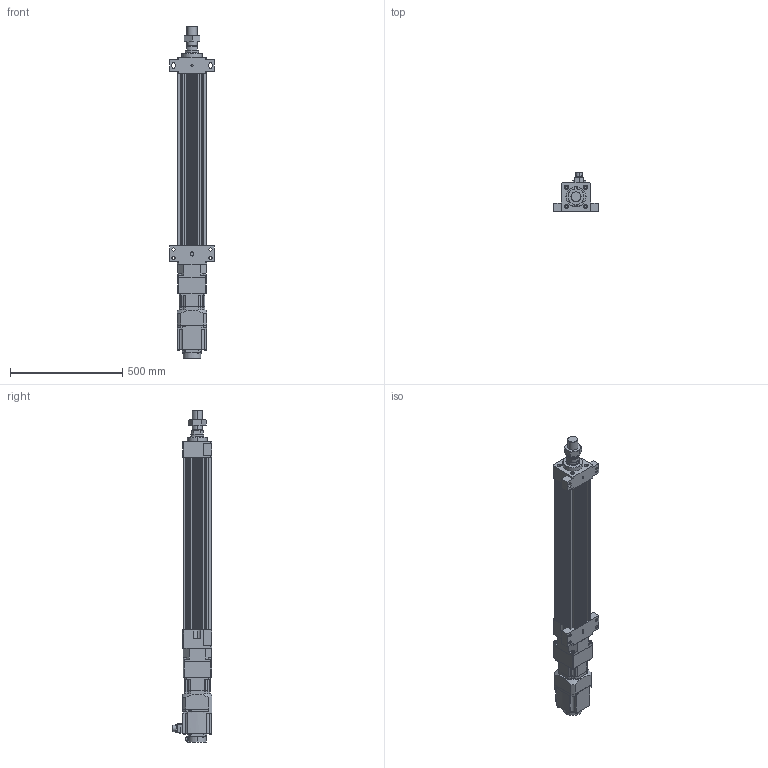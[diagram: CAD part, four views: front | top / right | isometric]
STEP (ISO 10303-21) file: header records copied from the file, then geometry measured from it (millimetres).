
FILE_DESCRIPTION (( 'STEP AP203' ), '1' );
FILE_NAME ('HES130NS(FS)(HS)-S550-W015G00-M-FFB.STEP', '2023-01-30T09:21:42', ( 'tms' ), ( '' ), 'SwSTEP 2.0', 'SolidWorks 2013', '' );
FILE_SCHEMA (( 'CONFIG_CONTROL_DESIGN' ));
Length unit declared in the file: millimetre
Products named in the file (8): AB1151; AB115-003[HG-SR152]; HES130NS(FS)(HS)-S550-W015G00-M-FFB; HES130-S550-G120-FFB; HES130 ROD M ST550; HG-SR152; P0401400706; M45X1.5P
Assembly tree (7 placements, depth 3):
  HES130NS(FS)(HS)-S550-W015G00-M-FFB
    HES130-S550-G120-FFB
    HES130 ROD M ST550
    M45X1.5P
    AB115-003[HG-SR152]
      AB1151
      P0401400706
    HG-SR152
Bounding box: 200 x 177.49 x 1479.5 mm (x, y, z)
Volume: 11841293.7 mm3; surface area: 1542030.3 mm2
Topology: 4 solids, 15 shells, 1211 faces, 3070 edges, 1998 vertices
Faces by surface type: plane 571, cylinder 546, cone 82, bspline 8, torus 4
Entity records: 38310 total; most frequent: CARTESIAN_POINT 7264, DIRECTION 6633, ORIENTED_EDGE 6092, EDGE_CURVE 3056, AXIS2_PLACEMENT_3D 2435, VERTEX_POINT 1998, VECTOR 1763, LINE 1763
